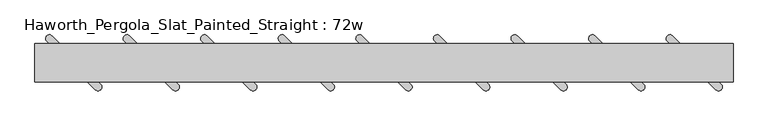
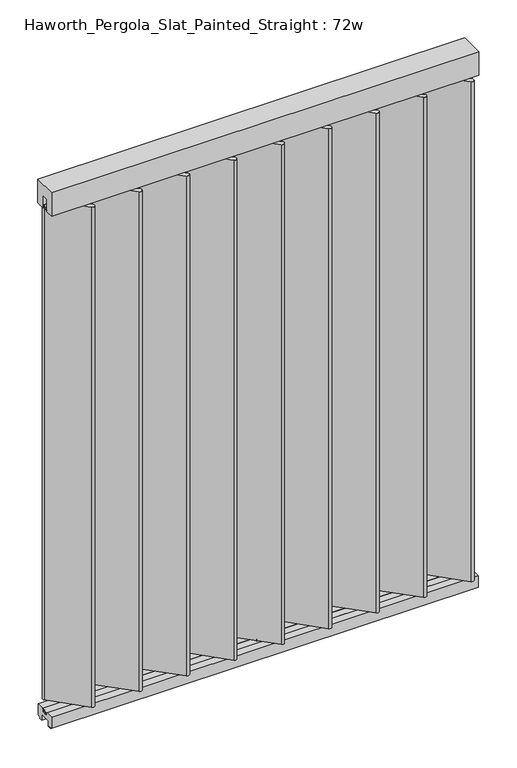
"""IFC4 building model written with IfcOpenShell, lengths in millimetres: furniture geometry, Haworth_Pergola_Slat_Painted_Straight : 72w."""

from ifc_helpers import new_model, si_unit, point, frame, frame_2d, origin, place, context, project, spatial, polyline, circle_curve, trimmed, segment, composite_curve, outline, extrude, source, transform, mapped, element, save


def haworth_pergola_slat_painted_straight_72w_08c36812(model_context):
    return source(origin(), model_context, "Body", "SweptSolid", [
        extrude(outline(composite_curve([segment(trimmed(circle_curve(frame_2d((-571.4999999, 1e-07)), 6.0), [point((-577.4999999, 1e-07))], [point((-565.4999999, 1e-07))], False, "CARTESIAN"), True, "CONTINUOUS"), segment(trimmed(circle_curve(frame_2d((-571.4999999, 1e-07)), 6.0), [point((-565.4999999, 1e-07))], [point((-577.4999999, 1e-07))], False, "CARTESIAN"), True, "CONTINUOUS")], self_intersect=False)), frame((0.0, 0.0, 2329.3585937), z_axis=(0.0, 0.0, 1.0), x_axis=(1.0, 0.0, 0.0)), (0.0, 0.0, 1.0), 4.9609375),
        extrude(outline(composite_curve([segment(trimmed(circle_curve(frame_2d((-571.4999999, 1e-07)), 6.0), [point((-577.4999999, 1e-07))], [point((-565.4999999, 1e-07))], False, "CARTESIAN"), True, "CONTINUOUS"), segment(trimmed(circle_curve(frame_2d((-571.4999999, 1e-07)), 6.0), [point((-565.4999999, 1e-07))], [point((-577.4999999, 1e-07))], False, "CARTESIAN"), True, "CONTINUOUS")], self_intersect=False)), frame((0.0, 0.0, 61.0195312), z_axis=(0.0, 0.0, 1.0), x_axis=(1.0, 0.0, 0.0)), (0.0, 0.0, 1.0), 4.9609375),
        extrude(outline(composite_curve([segment(polyline([(-628.0564808, 70.6986182), (-500.7867232, -56.5711383)]), True, "CONTINUOUS"), segment(trimmed(circle_curve(frame_2d((-507.8577925, -63.6422077)), 10.0000021), [point((-500.7867232, -56.5711383))], [point((-514.928862, -70.7132767))], False, "CARTESIAN"), True, "CONTINUOUS"), segment(polyline([(-514.928862, -70.7132767), (-642.1986152, 56.5564842)]), True, "CONTINUOUS"), segment(trimmed(circle_curve(frame_2d((-635.1275479, 63.627551)), 9.999999), [point((-642.1986152, 56.5564842))], [point((-628.0564808, 70.6986182))], False, "CARTESIAN"), True, "CONTINUOUS")], self_intersect=False)), frame((0.0, 0.0, 65.9804687), z_axis=(0.0, 0.0, 1.0), x_axis=(1.0, 0.0, 0.0)), (0.0, 0.0, 1.0), 2263.378125),
        extrude(outline(composite_curve([segment(trimmed(circle_curve(frame_2d((-368.2999999, 1e-07)), 6.0), [point((-374.2999999, 1e-07))], [point((-362.2999999, 1e-07))], False, "CARTESIAN"), True, "CONTINUOUS"), segment(trimmed(circle_curve(frame_2d((-368.2999999, 1e-07)), 6.0), [point((-362.2999999, 1e-07))], [point((-374.2999999, 1e-07))], False, "CARTESIAN"), True, "CONTINUOUS")], self_intersect=False)), frame((0.0, 0.0, 2329.3585937), z_axis=(0.0, 0.0, 1.0), x_axis=(1.0, 0.0, 0.0)), (0.0, 0.0, 1.0), 4.9609375),
        extrude(outline(composite_curve([segment(trimmed(circle_curve(frame_2d((-368.2999999, 1e-07)), 6.0), [point((-374.2999999, 1e-07))], [point((-362.2999999, 1e-07))], False, "CARTESIAN"), True, "CONTINUOUS"), segment(trimmed(circle_curve(frame_2d((-368.2999999, 1e-07)), 6.0), [point((-362.2999999, 1e-07))], [point((-374.2999999, 1e-07))], False, "CARTESIAN"), True, "CONTINUOUS")], self_intersect=False)), frame((0.0, 0.0, 61.0195312), z_axis=(0.0, 0.0, 1.0), x_axis=(1.0, 0.0, 0.0)), (0.0, 0.0, 1.0), 4.9609375),
        extrude(outline(composite_curve([segment(polyline([(-424.8564808, 70.6986182), (-297.5867232, -56.5711383)]), True, "CONTINUOUS"), segment(trimmed(circle_curve(frame_2d((-304.6577925, -63.6422077)), 10.0000021), [point((-297.5867232, -56.5711383))], [point((-311.728862, -70.7132767))], False, "CARTESIAN"), True, "CONTINUOUS"), segment(polyline([(-311.728862, -70.7132767), (-438.9986152, 56.5564842)]), True, "CONTINUOUS"), segment(trimmed(circle_curve(frame_2d((-431.9275479, 63.627551)), 9.999999), [point((-438.9986152, 56.5564842))], [point((-424.8564808, 70.6986182))], False, "CARTESIAN"), True, "CONTINUOUS")], self_intersect=False)), frame((0.0, 0.0, 65.9804687), z_axis=(0.0, 0.0, 1.0), x_axis=(1.0, 0.0, 0.0)), (0.0, 0.0, 1.0), 2263.378125),
        extrude(outline(composite_curve([segment(trimmed(circle_curve(frame_2d((-165.0999999, 1e-07)), 6.0), [point((-171.0999999, 1e-07))], [point((-159.0999999, 1e-07))], False, "CARTESIAN"), True, "CONTINUOUS"), segment(trimmed(circle_curve(frame_2d((-165.0999999, 1e-07)), 6.0), [point((-159.0999999, 1e-07))], [point((-171.0999999, 1e-07))], False, "CARTESIAN"), True, "CONTINUOUS")], self_intersect=False)), frame((0.0, 0.0, 2329.3585937), z_axis=(0.0, 0.0, 1.0), x_axis=(1.0, 0.0, 0.0)), (0.0, 0.0, 1.0), 4.9609375),
        extrude(outline(composite_curve([segment(trimmed(circle_curve(frame_2d((-165.0999999, 1e-07)), 6.0), [point((-171.0999999, 1e-07))], [point((-159.0999999, 1e-07))], False, "CARTESIAN"), True, "CONTINUOUS"), segment(trimmed(circle_curve(frame_2d((-165.0999999, 1e-07)), 6.0), [point((-159.0999999, 1e-07))], [point((-171.0999999, 1e-07))], False, "CARTESIAN"), True, "CONTINUOUS")], self_intersect=False)), frame((0.0, 0.0, 61.0195312), z_axis=(0.0, 0.0, 1.0), x_axis=(1.0, 0.0, 0.0)), (0.0, 0.0, 1.0), 4.9609375),
        extrude(outline(composite_curve([segment(polyline([(-221.6564808, 70.6986182), (-94.3867232, -56.5711383)]), True, "CONTINUOUS"), segment(trimmed(circle_curve(frame_2d((-101.4577925, -63.6422077)), 10.0000021), [point((-94.3867232, -56.5711383))], [point((-108.528862, -70.7132767))], False, "CARTESIAN"), True, "CONTINUOUS"), segment(polyline([(-108.528862, -70.7132767), (-235.7986152, 56.5564842)]), True, "CONTINUOUS"), segment(trimmed(circle_curve(frame_2d((-228.7275479, 63.627551)), 9.999999), [point((-235.7986152, 56.5564842))], [point((-221.6564808, 70.6986182))], False, "CARTESIAN"), True, "CONTINUOUS")], self_intersect=False)), frame((0.0, 0.0, 65.9804687), z_axis=(0.0, 0.0, 1.0), x_axis=(1.0, 0.0, 0.0)), (0.0, 0.0, 1.0), 2263.378125),
        extrude(outline(composite_curve([segment(trimmed(circle_curve(frame_2d((38.1000001, 1e-07)), 6.0), [point((32.1000001, 1e-07))], [point((44.1000001, 1e-07))], False, "CARTESIAN"), True, "CONTINUOUS"), segment(trimmed(circle_curve(frame_2d((38.1000001, 1e-07)), 6.0), [point((44.1000001, 1e-07))], [point((32.1000001, 1e-07))], False, "CARTESIAN"), True, "CONTINUOUS")], self_intersect=False)), frame((0.0, 0.0, 2329.3585937), z_axis=(0.0, 0.0, 1.0), x_axis=(1.0, 0.0, 0.0)), (0.0, 0.0, 1.0), 4.9609375),
        extrude(outline(composite_curve([segment(trimmed(circle_curve(frame_2d((38.1000001, 1e-07)), 6.0), [point((32.1000001, 1e-07))], [point((44.1000001, 1e-07))], False, "CARTESIAN"), True, "CONTINUOUS"), segment(trimmed(circle_curve(frame_2d((38.1000001, 1e-07)), 6.0), [point((44.1000001, 1e-07))], [point((32.1000001, 1e-07))], False, "CARTESIAN"), True, "CONTINUOUS")], self_intersect=False)), frame((0.0, 0.0, 61.0195312), z_axis=(0.0, 0.0, 1.0), x_axis=(1.0, 0.0, 0.0)), (0.0, 0.0, 1.0), 4.9609375),
        extrude(outline(composite_curve([segment(polyline([(-18.4564808, 70.6986182), (108.8132768, -56.5711383)]), True, "CONTINUOUS"), segment(trimmed(circle_curve(frame_2d((101.7422075, -63.6422077)), 10.0000021), [point((108.8132768, -56.5711383))], [point((94.671138, -70.7132767))], False, "CARTESIAN"), True, "CONTINUOUS"), segment(polyline([(94.671138, -70.7132767), (-32.5986152, 56.5564842)]), True, "CONTINUOUS"), segment(trimmed(circle_curve(frame_2d((-25.5275479, 63.627551)), 9.999999), [point((-32.5986152, 56.5564842))], [point((-18.4564808, 70.6986182))], False, "CARTESIAN"), True, "CONTINUOUS")], self_intersect=False)), frame((0.0, 0.0, 65.9804687), z_axis=(0.0, 0.0, 1.0), x_axis=(1.0, 0.0, 0.0)), (0.0, 0.0, 1.0), 2263.378125),
        extrude(outline(composite_curve([segment(trimmed(circle_curve(frame_2d((241.3000001, 1e-07)), 6.0), [point((235.3000001, 1e-07))], [point((247.3000001, 1e-07))], False, "CARTESIAN"), True, "CONTINUOUS"), segment(trimmed(circle_curve(frame_2d((241.3000001, 1e-07)), 6.0), [point((247.3000001, 1e-07))], [point((235.3000001, 1e-07))], False, "CARTESIAN"), True, "CONTINUOUS")], self_intersect=False)), frame((0.0, 0.0, 2329.3585937), z_axis=(0.0, 0.0, 1.0), x_axis=(1.0, 0.0, 0.0)), (0.0, 0.0, 1.0), 4.9609375),
        extrude(outline(composite_curve([segment(trimmed(circle_curve(frame_2d((241.3000001, 1e-07)), 6.0), [point((235.3000001, 1e-07))], [point((247.3000001, 1e-07))], False, "CARTESIAN"), True, "CONTINUOUS"), segment(trimmed(circle_curve(frame_2d((241.3000001, 1e-07)), 6.0), [point((247.3000001, 1e-07))], [point((235.3000001, 1e-07))], False, "CARTESIAN"), True, "CONTINUOUS")], self_intersect=False)), frame((0.0, 0.0, 61.0195312), z_axis=(0.0, 0.0, 1.0), x_axis=(1.0, 0.0, 0.0)), (0.0, 0.0, 1.0), 4.9609375),
        extrude(outline(composite_curve([segment(polyline([(184.7435192, 70.6986182), (312.0132768, -56.5711383)]), True, "CONTINUOUS"), segment(trimmed(circle_curve(frame_2d((304.9422075, -63.6422077)), 10.0000021), [point((312.0132768, -56.5711383))], [point((297.871138, -70.7132767))], False, "CARTESIAN"), True, "CONTINUOUS"), segment(polyline([(297.871138, -70.7132767), (170.6013848, 56.5564842)]), True, "CONTINUOUS"), segment(trimmed(circle_curve(frame_2d((177.6724521, 63.627551)), 9.999999), [point((170.6013848, 56.5564842))], [point((184.7435192, 70.6986182))], False, "CARTESIAN"), True, "CONTINUOUS")], self_intersect=False)), frame((0.0, 0.0, 65.9804687), z_axis=(0.0, 0.0, 1.0), x_axis=(1.0, 0.0, 0.0)), (0.0, 0.0, 1.0), 2263.378125),
        extrude(outline(composite_curve([segment(trimmed(circle_curve(frame_2d((444.5000001, 1e-07)), 6.0), [point((438.5000001, 1e-07))], [point((450.5000001, 1e-07))], False, "CARTESIAN"), True, "CONTINUOUS"), segment(trimmed(circle_curve(frame_2d((444.5000001, 1e-07)), 6.0), [point((450.5000001, 1e-07))], [point((438.5000001, 1e-07))], False, "CARTESIAN"), True, "CONTINUOUS")], self_intersect=False)), frame((0.0, 0.0, 2329.3585937), z_axis=(0.0, 0.0, 1.0), x_axis=(1.0, 0.0, 0.0)), (0.0, 0.0, 1.0), 4.9609375),
        extrude(outline(composite_curve([segment(trimmed(circle_curve(frame_2d((444.5000001, 1e-07)), 6.0), [point((438.5000001, 1e-07))], [point((450.5000001, 1e-07))], False, "CARTESIAN"), True, "CONTINUOUS"), segment(trimmed(circle_curve(frame_2d((444.5000001, 1e-07)), 6.0), [point((450.5000001, 1e-07))], [point((438.5000001, 1e-07))], False, "CARTESIAN"), True, "CONTINUOUS")], self_intersect=False)), frame((0.0, 0.0, 61.0195312), z_axis=(0.0, 0.0, 1.0), x_axis=(1.0, 0.0, 0.0)), (0.0, 0.0, 1.0), 4.9609375),
        extrude(outline(composite_curve([segment(polyline([(387.9435192, 70.6986182), (515.2132768, -56.5711383)]), True, "CONTINUOUS"), segment(trimmed(circle_curve(frame_2d((508.1422075, -63.6422077)), 10.0000021), [point((515.2132768, -56.5711383))], [point((501.071138, -70.7132767))], False, "CARTESIAN"), True, "CONTINUOUS"), segment(polyline([(501.071138, -70.7132767), (373.8013848, 56.5564842)]), True, "CONTINUOUS"), segment(trimmed(circle_curve(frame_2d((380.8724521, 63.627551)), 9.999999), [point((373.8013848, 56.5564842))], [point((387.9435192, 70.6986182))], False, "CARTESIAN"), True, "CONTINUOUS")], self_intersect=False)), frame((0.0, 0.0, 65.9804687), z_axis=(0.0, 0.0, 1.0), x_axis=(1.0, 0.0, 0.0)), (0.0, 0.0, 1.0), 2263.378125),
        extrude(outline(composite_curve([segment(trimmed(circle_curve(frame_2d((647.7000001, 1e-07)), 6.0), [point((641.7000001, 1e-07))], [point((653.7000001, 1e-07))], False, "CARTESIAN"), True, "CONTINUOUS"), segment(trimmed(circle_curve(frame_2d((647.7000001, 1e-07)), 6.0), [point((653.7000001, 1e-07))], [point((641.7000001, 1e-07))], False, "CARTESIAN"), True, "CONTINUOUS")], self_intersect=False)), frame((0.0, 0.0, 2329.3585937), z_axis=(0.0, 0.0, 1.0), x_axis=(1.0, 0.0, 0.0)), (0.0, 0.0, 1.0), 4.9609375),
        extrude(outline(composite_curve([segment(trimmed(circle_curve(frame_2d((647.7000001, 1e-07)), 6.0), [point((641.7000001, 1e-07))], [point((653.7000001, 1e-07))], False, "CARTESIAN"), True, "CONTINUOUS"), segment(trimmed(circle_curve(frame_2d((647.7000001, 1e-07)), 6.0), [point((653.7000001, 1e-07))], [point((641.7000001, 1e-07))], False, "CARTESIAN"), True, "CONTINUOUS")], self_intersect=False)), frame((0.0, 0.0, 61.0195312), z_axis=(0.0, 0.0, 1.0), x_axis=(1.0, 0.0, 0.0)), (0.0, 0.0, 1.0), 4.9609375),
        extrude(outline(composite_curve([segment(polyline([(591.1435192, 70.6986182), (718.4132768, -56.5711383)]), True, "CONTINUOUS"), segment(trimmed(circle_curve(frame_2d((711.3422075, -63.6422077)), 10.0000021), [point((718.4132768, -56.5711383))], [point((704.271138, -70.7132767))], False, "CARTESIAN"), True, "CONTINUOUS"), segment(polyline([(704.271138, -70.7132767), (577.0013848, 56.5564842)]), True, "CONTINUOUS"), segment(trimmed(circle_curve(frame_2d((584.0724521, 63.627551)), 9.999999), [point((577.0013848, 56.5564842))], [point((591.1435192, 70.6986182))], False, "CARTESIAN"), True, "CONTINUOUS")], self_intersect=False)), frame((0.0, 0.0, 65.9804687), z_axis=(0.0, 0.0, 1.0), x_axis=(1.0, 0.0, 0.0)), (0.0, 0.0, 1.0), 2263.378125),
        extrude(outline(composite_curve([segment(trimmed(circle_curve(frame_2d((-774.6999999, 1e-07)), 6.0), [point((-780.6999999, 1e-07))], [point((-768.6999999, 1e-07))], False, "CARTESIAN"), True, "CONTINUOUS"), segment(trimmed(circle_curve(frame_2d((-774.6999999, 1e-07)), 6.0), [point((-768.6999999, 1e-07))], [point((-780.6999999, 1e-07))], False, "CARTESIAN"), True, "CONTINUOUS")], self_intersect=False)), frame((0.0, 0.0, 2329.3585937), z_axis=(0.0, 0.0, 1.0), x_axis=(1.0, 0.0, 0.0)), (0.0, 0.0, 1.0), 4.9609375),
        extrude(outline(composite_curve([segment(trimmed(circle_curve(frame_2d((-774.6999999, 1e-07)), 6.0), [point((-780.6999999, 1e-07))], [point((-768.6999999, 1e-07))], False, "CARTESIAN"), True, "CONTINUOUS"), segment(trimmed(circle_curve(frame_2d((-774.6999999, 1e-07)), 6.0), [point((-768.6999999, 1e-07))], [point((-780.6999999, 1e-07))], False, "CARTESIAN"), True, "CONTINUOUS")], self_intersect=False)), frame((0.0, 0.0, 61.0195312), z_axis=(0.0, 0.0, 1.0), x_axis=(1.0, 0.0, 0.0)), (0.0, 0.0, 1.0), 4.9609375),
        extrude(outline(composite_curve([segment(polyline([(-831.2564808, 70.6986182), (-703.9867232, -56.5711383)]), True, "CONTINUOUS"), segment(trimmed(circle_curve(frame_2d((-711.0577925, -63.6422077)), 10.0000021), [point((-703.9867232, -56.5711383))], [point((-718.128862, -70.7132767))], False, "CARTESIAN"), True, "CONTINUOUS"), segment(polyline([(-718.128862, -70.7132767), (-845.3986152, 56.5564842)]), True, "CONTINUOUS"), segment(trimmed(circle_curve(frame_2d((-838.3275479, 63.627551)), 9.999999), [point((-845.3986152, 56.5564842))], [point((-831.2564808, 70.6986182))], False, "CARTESIAN"), True, "CONTINUOUS")], self_intersect=False)), frame((0.0, 0.0, 65.9804687), z_axis=(0.0, 0.0, 1.0), x_axis=(1.0, 0.0, 0.0)), (0.0, 0.0, 1.0), 2263.378125),
        extrude(outline(polyline([(-50.8, 2438.4), (50.8, 2438.4), (50.8, 2331.8390625), (15.2182948, 2331.8390625), (15.2182948, 2388.7001663), (-15.2182948, 2388.7001663), (-15.2182948, 2331.8390625), (-50.8, 2331.8390625), (-50.8, 2438.4)])), frame((-876.3, 0.0, 0.0), z_axis=(1.0, 0.0, 0.0), x_axis=(0.0, 1.0, 0.0)), (0.0, 0.0, 1.0), 1828.8),
        extrude(outline(composite_curve([segment(trimmed(circle_curve(frame_2d((850.9000001, 1e-07)), 6.0), [point((844.9000001, 1e-07))], [point((856.9000001, 1e-07))], False, "CARTESIAN"), True, "CONTINUOUS"), segment(trimmed(circle_curve(frame_2d((850.9000001, 1e-07)), 6.0), [point((856.9000001, 1e-07))], [point((844.9000001, 1e-07))], False, "CARTESIAN"), True, "CONTINUOUS")], self_intersect=False)), frame((0.0, 0.0, 2329.3585937), z_axis=(0.0, 0.0, 1.0), x_axis=(1.0, 0.0, 0.0)), (0.0, 0.0, 1.0), 4.9609375),
        extrude(outline(composite_curve([segment(trimmed(circle_curve(frame_2d((850.9000001, 1e-07)), 6.0), [point((844.9000001, 1e-07))], [point((856.9000001, 1e-07))], False, "CARTESIAN"), True, "CONTINUOUS"), segment(trimmed(circle_curve(frame_2d((850.9000001, 1e-07)), 6.0), [point((856.9000001, 1e-07))], [point((844.9000001, 1e-07))], False, "CARTESIAN"), True, "CONTINUOUS")], self_intersect=False)), frame((0.0, 0.0, 61.0195312), z_axis=(0.0, 0.0, 1.0), x_axis=(1.0, 0.0, 0.0)), (0.0, 0.0, 1.0), 4.9609375),
        extrude(outline(composite_curve([segment(polyline([(794.3435192, 70.6986182), (921.6132768, -56.5711383)]), True, "CONTINUOUS"), segment(trimmed(circle_curve(frame_2d((914.5422075, -63.6422077)), 10.0000021), [point((921.6132768, -56.5711383))], [point((907.471138, -70.7132767))], False, "CARTESIAN"), True, "CONTINUOUS"), segment(polyline([(907.471138, -70.7132767), (780.2013848, 56.5564842)]), True, "CONTINUOUS"), segment(trimmed(circle_curve(frame_2d((787.2724521, 63.627551)), 9.999999), [point((780.2013848, 56.5564842))], [point((794.3435192, 70.6986182))], False, "CARTESIAN"), True, "CONTINUOUS")], self_intersect=False)), frame((0.0, 0.0, 65.9804687), z_axis=(0.0, 0.0, 1.0), x_axis=(1.0, 0.0, 0.0)), (0.0, 0.0, 1.0), 2263.378125),
        extrude(outline(polyline([(-7.8249998, 61.7499993), (-15.2249995, 61.7499993), (-15.2249995, 63.5), (15.2249996, 63.5), (15.2249996, 61.7499999), (13.3999997, 61.7499999), (13.3999997, 50.2499995), (11.8250005, 50.2499995), (11.8250005, 61.7499993), (-4.8250001, 61.7499993), (-4.8250001, 50.0999996), (-7.8249998, 50.0999996), (-7.8249998, 61.7499993)])), frame((-876.3, 0.0, 0.0), z_axis=(1.0, 0.0, 0.0), x_axis=(0.0, 1.0, 0.0)), (0.0, 0.0, 1.0), 1828.8),
        extrude(outline(polyline([(-16.2000002, 63.5), (-16.5085717, 61.7499999), (-13.3999996, 61.7499999), (-13.3999996, 58.8973461), (-15.4000002, 59.2499999), (-15.4000002, 48.3500004), (15.4000003, 48.3500004), (15.4000003, 59.2499999), (13.3999997, 58.8973461), (13.3999997, 61.7499999), (16.5085718, 61.7499999), (16.2000003, 63.5), (50.0000004, 63.5), (50.0000004, 12.6999985), (40.9499987, 12.6999985), (38.9499981, 10.6999979), (28.9499999, 10.6999979), (28.9499999, 7.6999994), (38.9499981, 7.6999994), (38.9499981, 5.6999988), (23.7499993, 5.6999988), (23.7499993, 31.4500009), (-23.7499992, 31.4500009), (-23.7499992, 5.6999988), (-38.949998, 5.6999988), (-38.949998, 7.6999994), (-28.9499998, 7.6999994), (-28.9499998, 10.6999979), (-38.949998, 10.6999979), (-40.9499986, 12.6999985), (-50.0000003, 12.6999985), (-50.0000003, 63.5), (-16.2000002, 63.5)])), frame((-876.3, 0.0, 0.0), z_axis=(1.0, 0.0, 0.0), x_axis=(0.0, 1.0, 0.0)), (0.0, 0.0, 1.0), 1828.8),
        extrude(outline(polyline([(7.8249999, 2338.5500385), (15.2249996, 2338.5500385), (15.2249996, 2336.8), (-15.2249995, 2336.8), (-15.2249995, 2338.5500385), (-13.3999996, 2338.5500385), (-13.3999996, 2350.0500633), (-11.8249992, 2350.0500633), (-11.8250004, 2338.5500385), (4.8250002, 2338.5500385), (4.8250002, 2350.2000542), (7.8250005, 2350.2000542), (7.8249999, 2338.5500385)])), frame((-876.3, 0.0, 0.0), z_axis=(1.0, 0.0, 0.0), x_axis=(0.0, 1.0, 0.0)), (0.0, 0.0, 1.0), 1828.8),
        extrude(outline(composite_curve([segment(trimmed(circle_curve(frame_2d((38.1000001, 1e-07)), 6.0), [point((32.1000001, 1e-07))], [point((44.1000001, 1e-07))], False, "CARTESIAN"), True, "CONTINUOUS"), segment(trimmed(circle_curve(frame_2d((38.1000001, 1e-07)), 6.0), [point((44.1000001, 1e-07))], [point((32.1000001, 1e-07))], False, "CARTESIAN"), True, "CONTINUOUS")], self_intersect=False)), frame((0.0, 0.0, 2319.1390625), z_axis=(0.0, 0.0, 1.0), x_axis=(1.0, 0.0, 0.0)), (0.0, 0.0, 1.0), 17.6609375),
        extrude(outline(composite_curve([segment(trimmed(circle_curve(frame_2d((38.1000001, 1e-07)), 6.0), [point((32.1000001, 1e-07))], [point((44.1000001, 1e-07))], False, "CARTESIAN"), True, "CONTINUOUS"), segment(trimmed(circle_curve(frame_2d((38.1000001, 1e-07)), 6.0), [point((44.1000001, 1e-07))], [point((32.1000001, 1e-07))], False, "CARTESIAN"), True, "CONTINUOUS")], self_intersect=False)), frame((0.0, 0.0, 55.7609375), z_axis=(0.0, 0.0, 1.0), x_axis=(1.0, 0.0, 0.0)), (0.0, 0.0, 1.0), 7.7390625),
    ])


if __name__ == "__main__":
    model = new_model("IFC4")
    model_context = context("Model", 3, world=origin())
    ifc_project = project(units=[si_unit("LENGTHUNIT", "METRE", prefix="MILLI")], contexts=[model_context])
    site = spatial("IfcSite", under=ifc_project)
    building = spatial("IfcBuilding", under=site)
    placement = place(None, origin())
    haworth_pergola_slat_painted_straight_72w_shape = haworth_pergola_slat_painted_straight_72w_08c36812(model_context)
    element("IfcFurniture", 1, ObjectType="Haworth_Pergola_Slat_Painted_Straight : 72w", at=placement, inside=building, context=model_context, shape_type="MappedRepresentation", body=[
        mapped(haworth_pergola_slat_painted_straight_72w_shape, transform((0.0, 0.0, 0.0), x_axis=(1.0, 0.0, 0.0), y_axis=(0.0, 1.0, 0.0), z_axis=(0.0, 0.0, 1.0))),
    ])
    save(model, "model.ifc")
